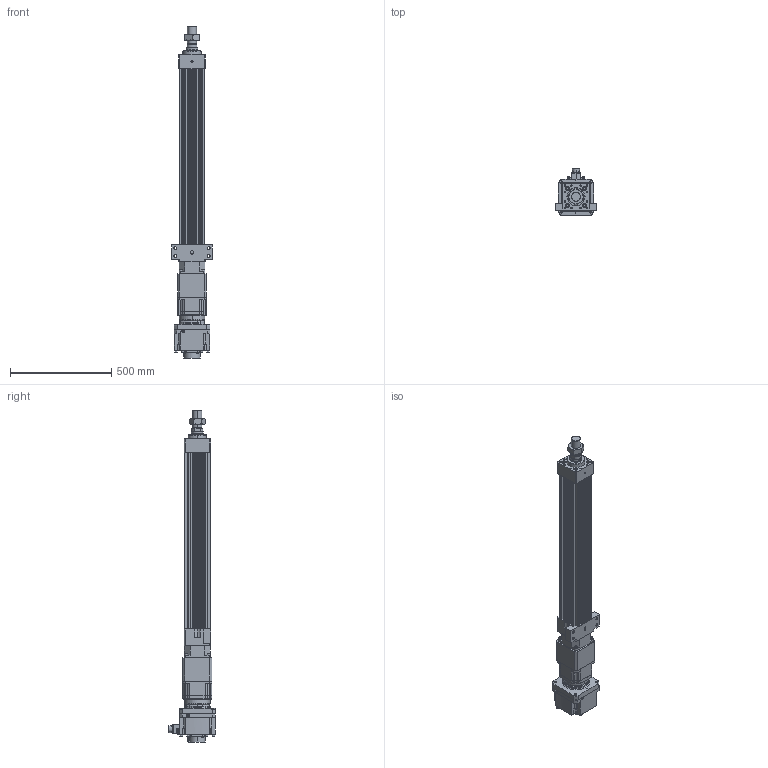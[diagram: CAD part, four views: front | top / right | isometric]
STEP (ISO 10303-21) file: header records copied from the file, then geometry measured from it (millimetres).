
FILE_DESCRIPTION (( 'STEP AP203' ), '1' );
FILE_NAME ('HES130FS(HS)-S650-W020G00-M-FFC.STEP', '2023-01-31T03:28:00', ( 'tms' ), ( '' ), 'SwSTEP 2.0', 'SolidWorks 2013', '' );
FILE_SCHEMA (( 'CONFIG_CONTROL_DESIGN' ));
Length unit declared in the file: millimetre
Products named in the file (9): HES130FS(HS)-S650-W020G00-M-FFC; HES130-S650-G142-FFC; AB1421; HES130 ROD M ST650; AB142-003[HG-SR352]; P1301500001; P0403500801; HG-SR202; M45X1.5P
Assembly tree (8 placements, depth 3):
  HES130FS(HS)-S650-W020G00-M-FFC
    HES130-S650-G142-FFC
    HES130 ROD M ST650
    M45X1.5P
    AB142-003[HG-SR352]
      AB1421
      P1301500001
      P0403500801
    HG-SR202
Bounding box: 200 x 228.85 x 1637.5 mm (x, y, z)
Volume: 14309472 mm3; surface area: 1885019.9 mm2
Topology: 4 solids, 22 shells, 1546 faces, 3982 edges, 2565 vertices
Faces by surface type: cylinder 694, plane 586, cone 184, bspline 76, torus 6
Entity records: 55838 total; most frequent: CARTESIAN_POINT 16862, DIRECTION 8160, ORIENTED_EDGE 7822, EDGE_CURVE 3933, AXIS2_PLACEMENT_3D 3080, VERTEX_POINT 2565, LINE 2000, VECTOR 2000
